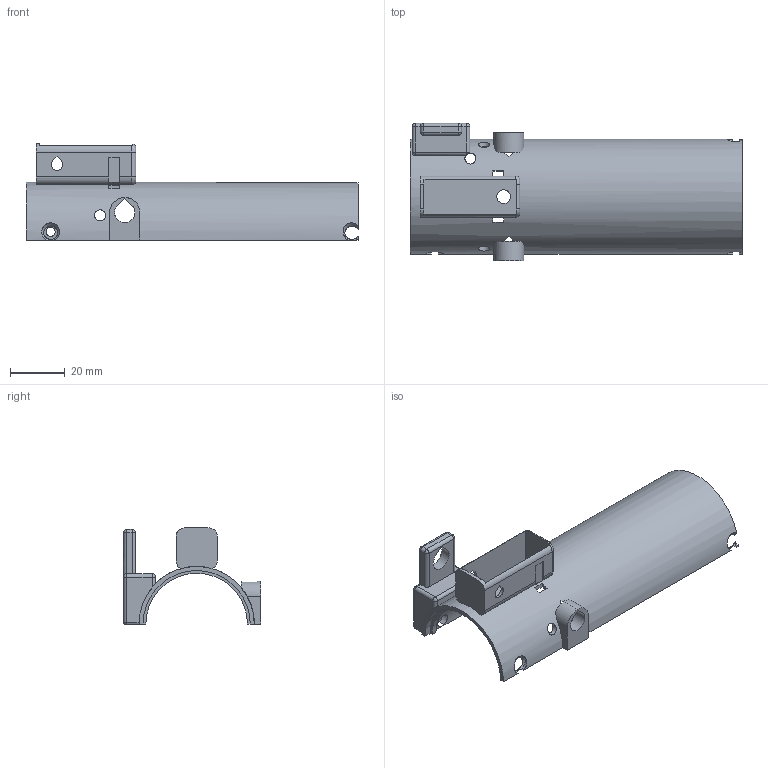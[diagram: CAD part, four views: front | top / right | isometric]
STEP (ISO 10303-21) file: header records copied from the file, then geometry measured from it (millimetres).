
FILE_DESCRIPTION(('Open CASCADE Model'),'2;1');
FILE_NAME('Open CASCADE Shape Model','2026-11-03T00:01:04',('Author'),( 'Open CASCADE'),'Open CASCADE STEP processor 8.0','build123d', 'Unknown');
FILE_SCHEMA(('AUTOMOTIVE_DESIGN { 1 0 10303 214 1 1 1 1 }'));
Length unit declared in the file: millimetre
Products named in the file (1): COMPOUND
Bounding box: 120.97 x 50 x 35 mm (x, y, z)
Volume: 17409 mm3; surface area: 20691.1 mm2
Topology: 1 solids, 1 shells, 134 faces, 394 edges, 247 vertices
Faces by surface type: plane 63, cylinder 53, sphere 10, torus 4, cone 4
Full cylindrical faces by diameter (mm): 3.3 x1, 4 x3, 5 x1
Entity records: 16362 total; most frequent: CARTESIAN_POINT 9187, DIRECTION 1190, ORIENTED_EDGE 772, PCURVE 772, DEFINITIONAL_REPRESENTATION 772, LINE 586, VECTOR 586, EDGE_CURVE 386
